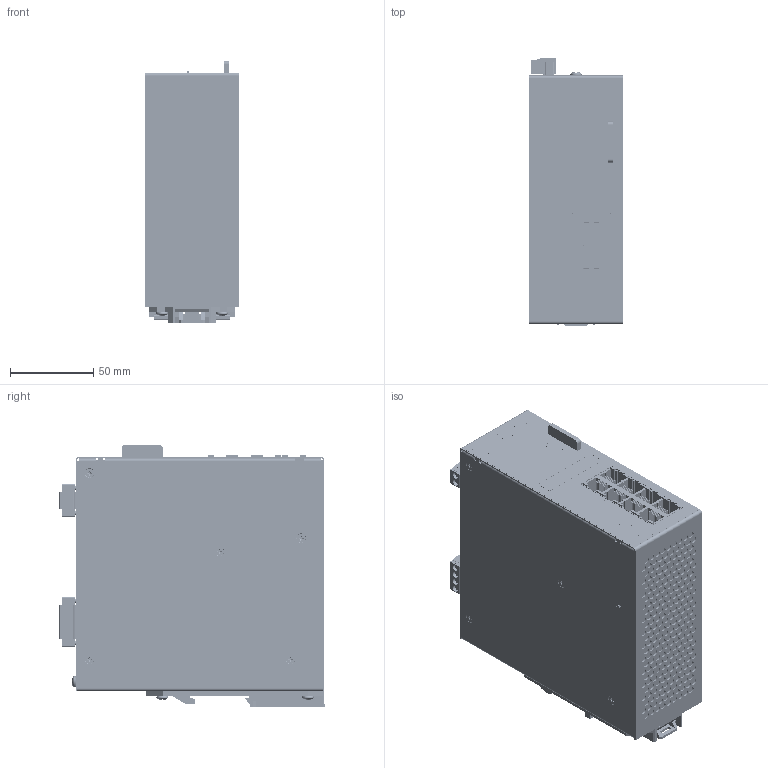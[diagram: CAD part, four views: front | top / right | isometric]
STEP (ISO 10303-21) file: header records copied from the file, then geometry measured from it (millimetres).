
FILE_DESCRIPTION (( 'STEP AP214' ), '1' );
FILE_NAME ('NT24k-8TX.STEP', '2023-02-13T16:22:48', ( '' ), ( '' ), 'SwSTEP 2.0', 'SolidWorks 2022', '' );
FILE_SCHEMA (( 'AUTOMOTIVE_DESIGN' ));
Length unit declared in the file: inch
Products named in the file (16): Part2; 670688000; NT24k-8TX; NPTH0022; Overlay; NHBDINR1; mstb_2.5-4-5.08.stp; pxc_1778001_08_MSTB-2-5-4-STF-5-08_3D.stp; Part1; ethernet 2x4; NHM04404_96640A334; Front cover sheet metal; Terminal block; NHM06320_91249A144; Left cover sheet metal; Right cover sheet metal
Assembly tree (25 placements, depth 4):
  NT24k-8TX
    Right cover sheet metal
    Left cover sheet metal
    Front cover sheet metal
    NHM04404_96640A334  x7
    NHBDINR1
    NHM06320_91249A144  x5
    NPTH0022
    Terminal block
      pxc_1778001_08_MSTB-2-5-4-STF-5-08_3D.stp
        mstb_2.5-4-5.08.stp
    670688000
    ethernet 2x4
    Overlay
    Part1
    Part2
Bounding box: 56.44 x 160.18 x 157.37 mm (x, y, z)
Volume: 1155990.1 mm3; surface area: 281717.3 mm2
Topology: 29 solids, 29 shells, 5136 faces, 14260 edges, 9407 vertices
Faces by surface type: plane 2695, cylinder 1797, bspline 418, cone 172, torus 44, sphere 10
Entity records: 184806 total; most frequent: CARTESIAN_POINT 53731, ORIENTED_EDGE 24248, DIRECTION 22046, EDGE_CURVE 12124, LINE 8268, VECTOR 8268, VERTEX_POINT 8007, AXIS2_PLACEMENT_3D 6889
